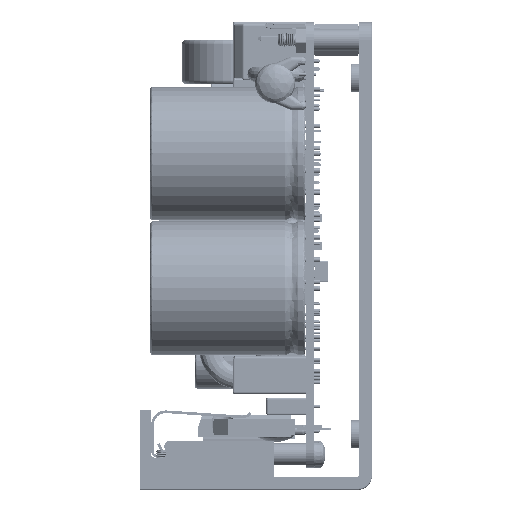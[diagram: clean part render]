
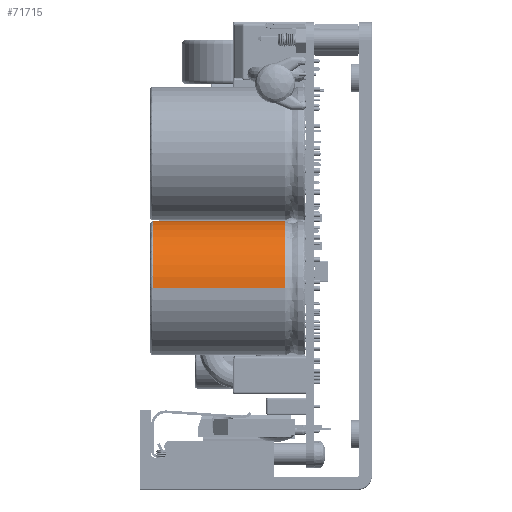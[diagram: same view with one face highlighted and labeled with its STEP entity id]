
A CAD part, left-side view. The second image highlights one B-rep face of the part: STEP entity #71715.
In plain terms, the highlighted cylindrical face has radius 15 mm (diameter 30 mm), a partial arc.
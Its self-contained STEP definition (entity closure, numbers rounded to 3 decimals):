
#12125 = ORIENTED_EDGE ( 'NONE', *, *, #170027, .T. ) ;
#12180 = DIRECTION ( 'NONE',  ( 1., 0., 0. ) ) ;
#17580 = VERTEX_POINT ( 'NONE', #158736 ) ;
#19426 = LINE ( 'NONE', #119396, #90568 ) ;
#21655 = VERTEX_POINT ( 'NONE', #129332 ) ;
#39648 = VERTEX_POINT ( 'NONE', #94178 ) ;
#41654 = EDGE_CURVE ( 'NONE', #21655, #94395, #106639, .T. ) ;
#49870 = FACE_OUTER_BOUND ( 'NONE', #154259, .T. ) ;
#51060 = DIRECTION ( 'NONE',  ( 1., 0., 0. ) ) ;
#59800 = ORIENTED_EDGE ( 'NONE', *, *, #116021, .T. ) ;
#61561 = VECTOR ( 'NONE', #79735, 1000. ) ;
#64432 = CARTESIAN_POINT ( 'NONE',  ( 16., 59.75, 34.5 ) ) ;
#67982 = AXIS2_PLACEMENT_3D ( 'NONE', #136311, #80190, #51060 ) ;
#71715 = ADVANCED_FACE ( 'NONE', ( #49870 ), #163365, .T. ) ;
#75235 = AXIS2_PLACEMENT_3D ( 'NONE', #64432, #91143, #106134 ) ;
#79735 = DIRECTION ( 'NONE',  ( 0., 0., -1. ) ) ;
#80190 = DIRECTION ( 'NONE',  ( 0., 0., 1. ) ) ;
#80345 = CARTESIAN_POINT ( 'NONE',  ( 1., 59.75, 35. ) ) ;
#90568 = VECTOR ( 'NONE', #163553, 1000. ) ;
#91143 = DIRECTION ( 'NONE',  ( 0., 0., -1. ) ) ;
#94178 = CARTESIAN_POINT ( 'NONE',  ( 1., 59.75, 34.5 ) ) ;
#94395 = VERTEX_POINT ( 'NONE', #118921 ) ;
#98034 = CARTESIAN_POINT ( 'NONE',  ( 16., 59.75, 35. ) ) ;
#106134 = DIRECTION ( 'NONE',  ( 1., 0., 0. ) ) ;
#106639 = CIRCLE ( 'NONE', #67982, 15. ) ;
#116021 = EDGE_CURVE ( 'NONE', #17580, #39648, #122010, .T. ) ;
#118921 = CARTESIAN_POINT ( 'NONE',  ( 31., 59.75, 4.8 ) ) ;
#119396 = CARTESIAN_POINT ( 'NONE',  ( 31., 59.75, 35. ) ) ;
#122010 = CIRCLE ( 'NONE', #75235, 15. ) ;
#124316 = ORIENTED_EDGE ( 'NONE', *, *, #41654, .T. ) ;
#129332 = CARTESIAN_POINT ( 'NONE',  ( 1., 59.75, 4.8 ) ) ;
#132294 = ORIENTED_EDGE ( 'NONE', *, *, #137771, .F. ) ;
#136311 = CARTESIAN_POINT ( 'NONE',  ( 16., 59.75, 4.8 ) ) ;
#137283 = LINE ( 'NONE', #80345, #61561 ) ;
#137771 = EDGE_CURVE ( 'NONE', #17580, #94395, #19426, .T. ) ;
#154259 = EDGE_LOOP ( 'NONE', ( #59800, #12125, #124316, #132294 ) ) ;
#158736 = CARTESIAN_POINT ( 'NONE',  ( 31., 59.75, 34.5 ) ) ;
#163365 = CYLINDRICAL_SURFACE ( 'NONE', #171765, 15. ) ;
#163553 = DIRECTION ( 'NONE',  ( 0., 0., -1. ) ) ;
#170027 = EDGE_CURVE ( 'NONE', #39648, #21655, #137283, .T. ) ;
#171765 = AXIS2_PLACEMENT_3D ( 'NONE', #98034, #184530, #12180 ) ;
#184530 = DIRECTION ( 'NONE',  ( 0., 0., -1. ) ) ;
